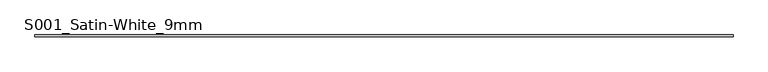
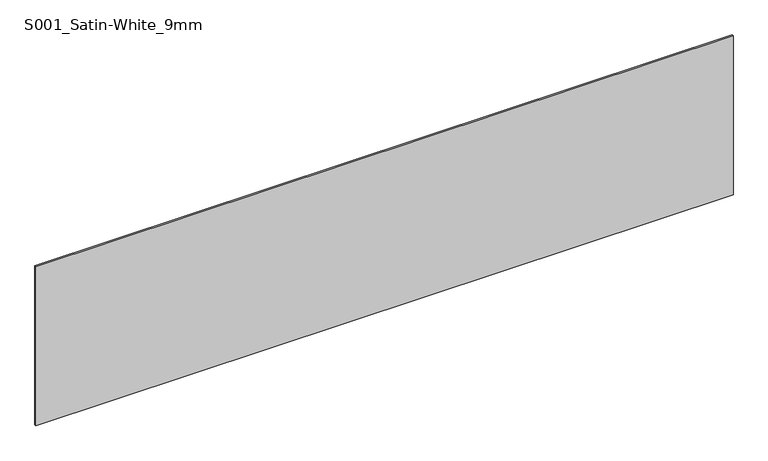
"""IFC4 building model written with IfcOpenShell, lengths in millimetres: plate geometry, Curtain-Panels_Outdoor-Material_HI-MACS_Solids : S001_Satin-White_9mm."""

from ifc_helpers import new_model, si_unit, origin, origin_with_axes, place, context, project, spatial, polyline, outline, extrude, source, transform, mapped, element, save


def s001_satin_white_9mm_806968e8(model_context):
    return source(origin(), model_context, "Body", "SweptSolid", [
        extrude(outline(polyline([(1840.0, 4.5), (1840.0, -4.5), (-1840.0, -4.5), (-1840.0, 4.5), (1840.0, 4.5)])), origin_with_axes(), (0.0, 0.0, 1.0), 887.7043338),
    ])


if __name__ == "__main__":
    model = new_model("IFC4")
    model_context = context("Model", 3, world=origin())
    ifc_project = project(units=[si_unit("LENGTHUNIT", "METRE", prefix="MILLI")], contexts=[model_context])
    site = spatial("IfcSite", under=ifc_project)
    building = spatial("IfcBuilding", under=site)
    placement = place(None, origin())
    s001_satin_white_9mm_shape = s001_satin_white_9mm_806968e8(model_context)
    element("IfcPlate", 1, ObjectType="Curtain-Panels_Outdoor-Material_HI-MACS_Solids : S001_Satin-White_9mm", at=placement, inside=building, context=model_context, shape_type="MappedRepresentation", body=[
        mapped(s001_satin_white_9mm_shape, transform((0.0, 0.0, 0.0), x_axis=(1.0, 0.0, 0.0), y_axis=(0.0, 1.0, 0.0), z_axis=(0.0, 0.0, 1.0))),
    ])
    save(model, "model.ifc")
